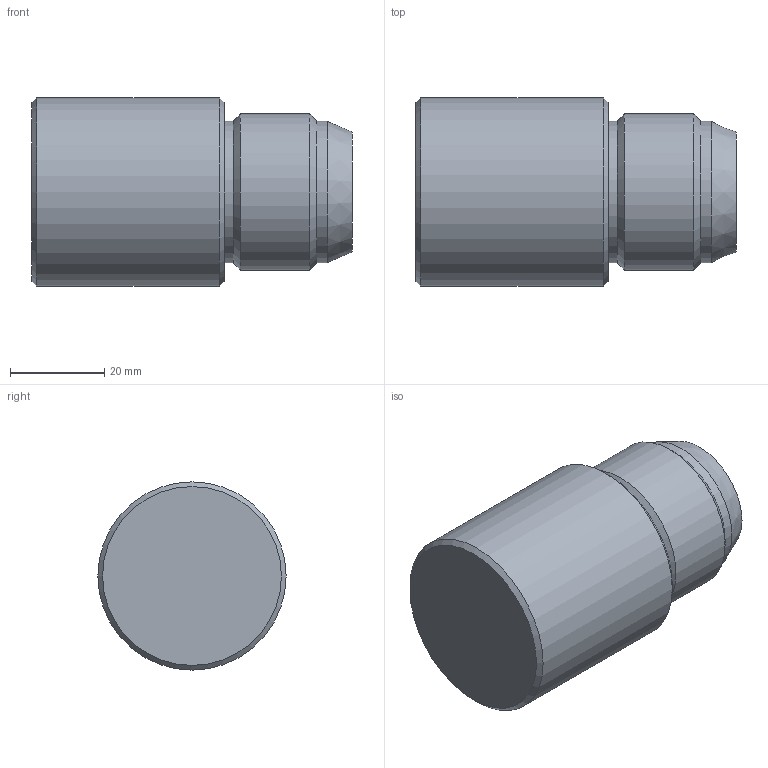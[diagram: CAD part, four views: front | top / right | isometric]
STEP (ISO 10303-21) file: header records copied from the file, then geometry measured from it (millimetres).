
FILE_DESCRIPTION( ( 'STEP AP214' ), ' ' );
FILE_NAME( 'p:/temp/worker_3/1136_964/app_41_02016033109002797619376192d056f_000000_00_00_000000/format_0/ESD-350.stp', '2016-03-31T07:00:28', ( '' ), ( '' ), ' ', 'PARTsolutions', ' ' );
FILE_SCHEMA( ( 'AUTOMOTIVE_DESIGN { 1 0 10303 214 1 1 1 1 }' ) );
Length unit declared in the file: millimetre
Products named in the file (1): _ESD-350
Bounding box: 68 x 40 x 40 mm (x, y, z)
Volume: 72471 mm3; surface area: 10176.3 mm2
Topology: 1 solids, 1 shells, 14 faces, 22 edges, 13 vertices
Faces by surface type: cone 5, plane 5, cylinder 4
Full cylindrical faces by diameter (mm): 30 x2, 33.249 x1, 40 x1
Entity records: 402 total; most frequent: DIRECTION 56, CARTESIAN_POINT 41, AXIS2_PLACEMENT_3D 28, EDGE_LOOP 26, ORIENTED_EDGE 26, FACE_OUTER_BOUND 18, STYLED_ITEM 14, PRESENTATION_STYLE_ASSIGNMENT 14
